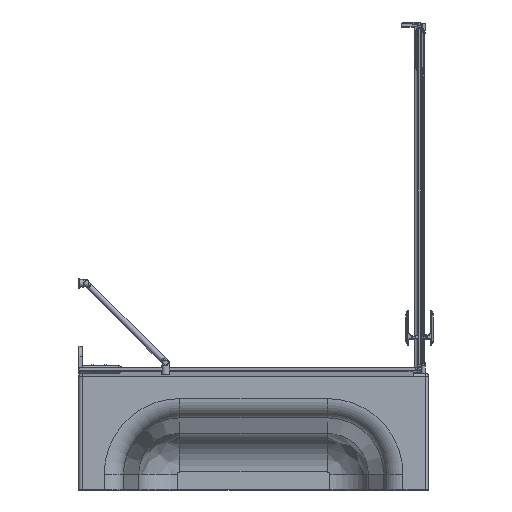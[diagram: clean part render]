
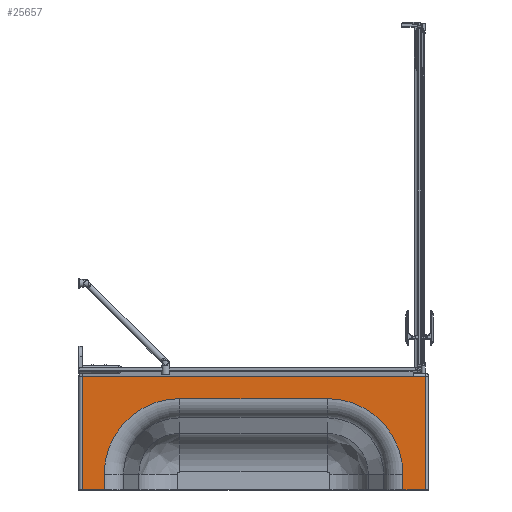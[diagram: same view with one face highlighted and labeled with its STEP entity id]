
A CAD part, top view. The second image highlights one B-rep face of the part: STEP entity #25657.
In plain terms, the highlighted planar face has unit normal (0, 0, 1).
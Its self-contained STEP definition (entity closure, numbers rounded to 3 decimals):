
#1822=LINE($,#41510,#4067);
#1823=LINE($,#41521,#4068);
#1825=LINE($,#41533,#4070);
#1836=LINE($,#41562,#4081);
#1839=LINE($,#41570,#4084);
#1845=LINE($,#41594,#4090);
#1847=LINE($,#41597,#4092);
#1850=LINE($,#41601,#4095);
#4067=VECTOR($,#32249,40.);
#4068=VECTOR($,#32262,380.);
#4070=VECTOR($,#32276,40.);
#4081=VECTOR($,#32305,56.764);
#4084=VECTOR($,#32312,56.764);
#4090=VECTOR($,#32342,291.);
#4092=VECTOR($,#32346,882.);
#4095=VECTOR($,#32351,291.);
#5480=PLANE($,#27579);
#6735=FACE_OUTER_BOUND($,#8173,.T.);
#8173=EDGE_LOOP($,(#19563,#19564,#19565,#19566,#19567,#19568,#19569,#19570,
#19571,#19572));
#9448=CIRCLE($,#27531,194.236);
#9452=CIRCLE($,#27537,194.236);
#11232=VERTEX_POINT($,#41503);
#11235=VERTEX_POINT($,#41508);
#11237=VERTEX_POINT($,#41513);
#11239=VERTEX_POINT($,#41519);
#11241=VERTEX_POINT($,#41525);
#11243=VERTEX_POINT($,#41531);
#11252=VERTEX_POINT($,#41561);
#11255=VERTEX_POINT($,#41568);
#11257=VERTEX_POINT($,#41575);
#11260=VERTEX_POINT($,#41585);
#14194=EDGE_CURVE($,#11235,#11232,#1822,.T.);
#14196=EDGE_CURVE($,#11237,#11235,#9448,.T.);
#14199=EDGE_CURVE($,#11239,#11237,#1823,.T.);
#14202=EDGE_CURVE($,#11241,#11239,#9452,.T.);
#14205=EDGE_CURVE($,#11243,#11241,#1825,.T.);
#14220=EDGE_CURVE($,#11252,#11232,#1836,.T.);
#14225=EDGE_CURVE($,#11243,#11255,#1839,.T.);
#14237=EDGE_CURVE($,#11252,#11260,#1845,.T.);
#14239=EDGE_CURVE($,#11260,#11257,#1847,.T.);
#14242=EDGE_CURVE($,#11257,#11255,#1850,.T.);
#19563=ORIENTED_EDGE($,*,*,#14205,.F.);
#19564=ORIENTED_EDGE($,*,*,#14225,.T.);
#19565=ORIENTED_EDGE($,*,*,#14242,.F.);
#19566=ORIENTED_EDGE($,*,*,#14239,.F.);
#19567=ORIENTED_EDGE($,*,*,#14237,.F.);
#19568=ORIENTED_EDGE($,*,*,#14220,.T.);
#19569=ORIENTED_EDGE($,*,*,#14194,.F.);
#19570=ORIENTED_EDGE($,*,*,#14196,.F.);
#19571=ORIENTED_EDGE($,*,*,#14199,.F.);
#19572=ORIENTED_EDGE($,*,*,#14202,.F.);
#25657=ADVANCED_FACE($,(#6735),#5480,.T.);
#27531=AXIS2_PLACEMENT_3D($,#41515,#32254,#32255);
#27537=AXIS2_PLACEMENT_3D($,#41527,#32268,#32269);
#27579=AXIS2_PLACEMENT_3D($,#41640,#32381,#32382);
#32249=DIRECTION($,(0.,-1.,0.));
#32254=DIRECTION('center_axis',(0.,0.,
1.));
#32255=DIRECTION('ref_axis',(-0.707,0.707,0.));
#32262=DIRECTION($,(-1.,0.,0.));
#32268=DIRECTION('center_axis',(0.,0.,
1.));
#32269=DIRECTION('ref_axis',(0.707,0.707,0.));
#32276=DIRECTION($,(0.,1.,0.));
#32305=DIRECTION($,(1.,0.,0.));
#32312=DIRECTION($,(1.,0.,0.));
#32342=DIRECTION($,(0.,1.,0.));
#32346=DIRECTION($,(1.,0.,0.));
#32351=DIRECTION($,(0.,-1.,0.));
#32381=DIRECTION('center_axis',(0.,0.,
1.));
#32382=DIRECTION('ref_axis',(0.,-1.,0.));
#41503=CARTESIAN_POINT('',(431.783,-254.044,-15.056));
#41508=CARTESIAN_POINT('',(431.783,-214.044,-15.056));
#41510=CARTESIAN_POINT($,(431.783,-509.044,-15.056));
#41513=CARTESIAN_POINT('',(626.019,-19.808,-15.056));
#41515=CARTESIAN_POINT('Origin',(626.019,-214.044,-15.056));
#41519=CARTESIAN_POINT('',(1006.019,-19.808,-15.056));
#41521=CARTESIAN_POINT($,(911.019,-19.808,-15.056));
#41525=CARTESIAN_POINT('',(1200.255,-214.044,-15.056));
#41527=CARTESIAN_POINT('Origin',(1006.019,-214.044,-15.056));
#41531=CARTESIAN_POINT('',(1200.255,-254.044,-15.056));
#41533=CARTESIAN_POINT($,(1200.255,-1099.044,-15.056));
#41561=CARTESIAN_POINT('',(375.019,-254.044,-15.056));
#41562=CARTESIAN_POINT($,(816.019,-254.044,-15.056));
#41568=CARTESIAN_POINT('',(1257.019,-254.044,-15.056));
#41570=CARTESIAN_POINT($,(816.019,-254.044,-15.056));
#41575=CARTESIAN_POINT('',(1257.019,36.956,-15.056));
#41585=CARTESIAN_POINT('',(375.019,36.956,-15.056));
#41594=CARTESIAN_POINT($,(375.019,-379.044,-15.056));
#41597=CARTESIAN_POINT($,(1041.019,36.956,-15.056));
#41601=CARTESIAN_POINT($,(1257.019,-1229.044,-15.056));
#41640=CARTESIAN_POINT('Origin',(816.019,-804.044,-15.056));
